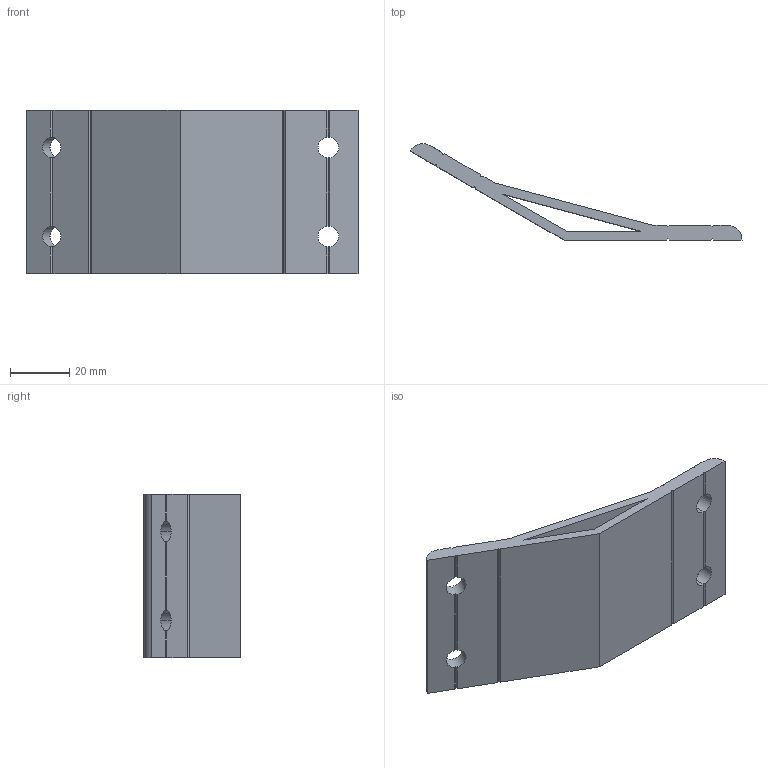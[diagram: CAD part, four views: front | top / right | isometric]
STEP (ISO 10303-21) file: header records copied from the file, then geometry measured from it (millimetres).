
FILE_DESCRIPTION (( 'STEP AP203' ), '1' );
FILE_NAME ('WA55150-6.STEP', '2024-02-17T07:52:04', ( '' ), ( '' ), 'SwSTEP 2.0', 'SolidWorks 2022', '' );
FILE_SCHEMA (( 'CONFIG_CONTROL_DESIGN' ));
Length unit declared in the file: millimetre
Products named in the file (1): WA55150-6
Bounding box: 111.96 x 32.5 x 55 mm (x, y, z)
Volume: 33821.9 mm3; surface area: 20210.1 mm2
Topology: 1 solids, 1 shells, 60 faces, 190 edges, 124 vertices
Faces by surface type: plane 50, cylinder 10
Entity records: 2175 total; most frequent: CARTESIAN_POINT 471, ORIENTED_EDGE 380, DIRECTION 308, EDGE_CURVE 190, LINE 130, VECTOR 130, VERTEX_POINT 124, AXIS2_PLACEMENT_3D 89
